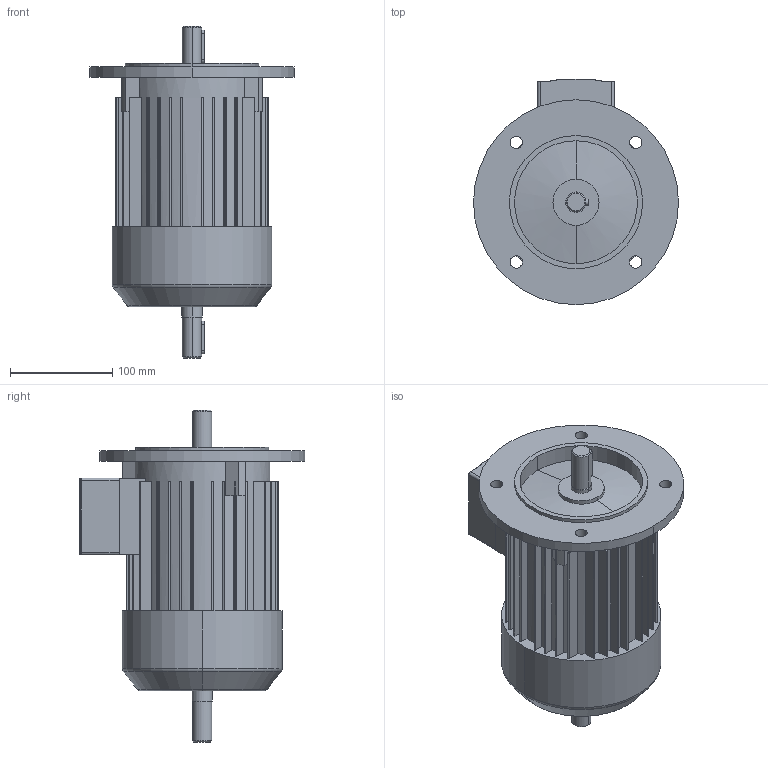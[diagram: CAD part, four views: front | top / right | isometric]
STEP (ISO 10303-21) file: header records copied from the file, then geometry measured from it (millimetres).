
FILE_DESCRIPTION((''),'2;1');
FILE_NAME('1LA7080-2AA11-Z-K16_PRT','2002-04-12T',('martin könig'),(''),'PRO/ENGINEER BY PARAMETRIC TECHNOLOGY CORPORATION, 2002030','PRO/ENGINEER BY PARAMETRIC TECHNOLOGY CORPORATION, 2002030','');
FILE_SCHEMA(('CONFIG_CONTROL_DESIGN'));
Length unit declared in the file: millimetre
Products named in the file (1): 1LA7080-2AA11-Z-K16_PRT
Bounding box: 200 x 220 x 324 mm (x, y, z)
Volume: 4067808.8 mm3; surface area: 267119 mm2
Topology: 1 solids, 1 shells, 238 faces, 648 edges, 424 vertices
Faces by surface type: plane 143, cylinder 83, cone 8, torus 4
Entity records: 7678 total; most frequent: CARTESIAN_POINT 1382, DIRECTION 1360, ORIENTED_EDGE 1296, EDGE_CURVE 648, AXIS2_PLACEMENT_3D 478, VERTEX_POINT 424, VECTOR 404, LINE 404
